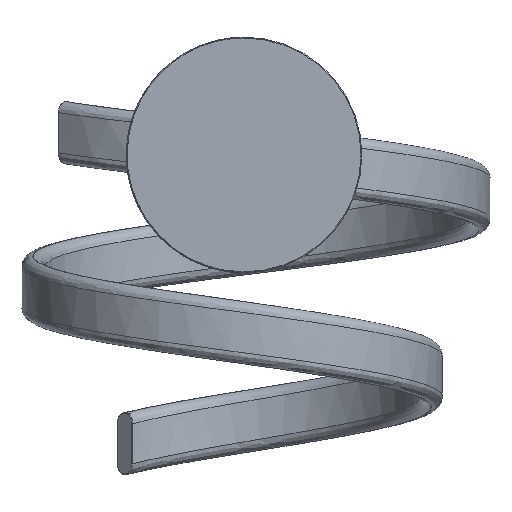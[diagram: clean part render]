
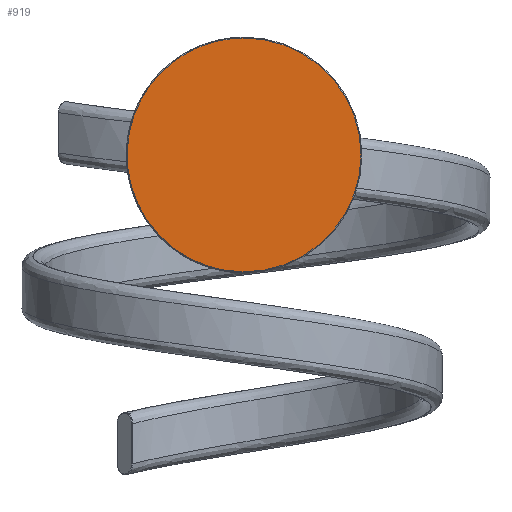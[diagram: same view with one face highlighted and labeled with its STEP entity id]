
A CAD part, front view. The second image highlights one B-rep face of the part: STEP entity #919.
In plain terms, the highlighted planar face has unit normal (0, -1, 0).
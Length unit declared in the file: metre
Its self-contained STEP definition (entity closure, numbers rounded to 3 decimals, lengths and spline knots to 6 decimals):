
#20=EDGE_CURVE('',#21,#23,#25,.F.);
#21=VERTEX_POINT('',#22);
#22=CARTESIAN_POINT('',(0.0,0.0,-0.0263));
#23=VERTEX_POINT('',#24);
#24=CARTESIAN_POINT('',(0.0,0.0,0.0263));
#25=CIRCLE('',#26,0.0263);
#26=AXIS2_PLACEMENT_3D('',#27,#28,#29);
#27=CARTESIAN_POINT('',(0.0,0.0,0.0));
#28=DIRECTION('',(0.0,1.0,0.0));
#29=DIRECTION('',(0.0,0.0,1.0));
#919=ADVANCED_FACE('',(#925),#920,.F.);
#920=PLANE('',#921);
#921=AXIS2_PLACEMENT_3D('',#922,#923,#924);
#922=CARTESIAN_POINT('',(0.0,0.0,0.0265));
#923=DIRECTION('',(0.0,1.0,0.0));
#924=DIRECTION('',(0.0,0.0,1.0));
#925=FACE_OUTER_BOUND('',#926,.T.);
#926=EDGE_LOOP('',(#927,#935));
#927=ORIENTED_EDGE('',*,*,#929,.T.);
#928=CARTESIAN_POINT('',(0.0,0.0,-0.0263));
#929=EDGE_CURVE('',#23,#21,#930,.F.);
#930=(B_SPLINE_CURVE(3,(#928,#931,#932,#933),.UNSPECIFIED.,.F.,.U.)B_SPLINE_CURVE_WITH_KNOTS(
  (4,4),(0.0,1.0),.UNSPECIFIED.)BOUNDED_CURVE()CURVE()GEOMETRIC_REPRESENTATION_ITEM(
  )RATIONAL_B_SPLINE_CURVE((1.0,0.333,0.333,1.0)
  )REPRESENTATION_ITEM(''));
#931=CARTESIAN_POINT('',(-0.0526,0.0,-0.0263));
#932=CARTESIAN_POINT('',(-0.0526,0.0,0.0263));
#933=CARTESIAN_POINT('',(0.0,0.0,0.0263));
#935=ORIENTED_EDGE('',*,*,#20,.T.);
